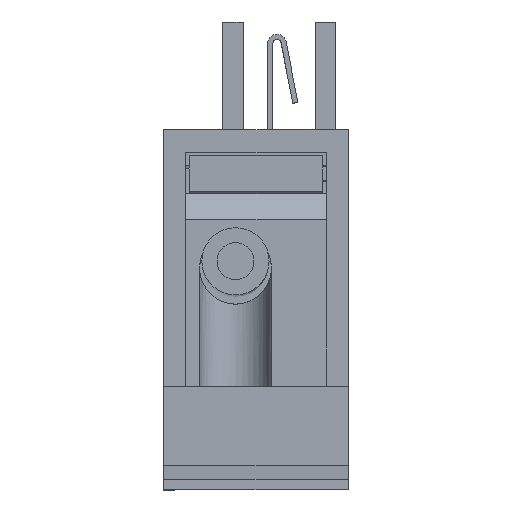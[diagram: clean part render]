
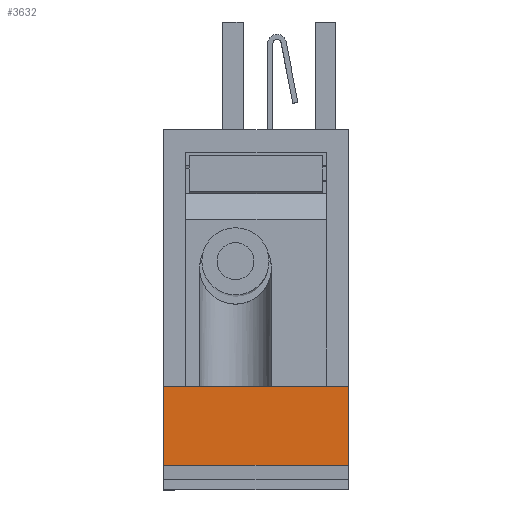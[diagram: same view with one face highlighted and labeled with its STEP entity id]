
A CAD part, top view. The second image highlights one B-rep face of the part: STEP entity #3632.
In plain terms, the highlighted planar face has unit normal (0, 0, 1).
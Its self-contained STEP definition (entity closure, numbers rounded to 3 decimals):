
#3619=AXIS2_PLACEMENT_3D('Plane Axis2P3D',#3616,#3617,#3618) ;
#1195=CARTESIAN_POINT('Vertex',(-9.,24.,37.5)) ;
#1198=CARTESIAN_POINT('Line Origine',(-9.,28.08,37.5)) ;
#1202=CARTESIAN_POINT('Vertex',(-9.,32.16,37.5)) ;
#1618=CARTESIAN_POINT('Vertex',(9.,32.16,37.5)) ;
#1621=CARTESIAN_POINT('Line Origine',(9.,28.08,37.5)) ;
#1625=CARTESIAN_POINT('Vertex',(9.,24.,37.5)) ;
#3534=CARTESIAN_POINT('Line Origine',(0.,24.,37.5)) ;
#3616=CARTESIAN_POINT('Axis2P3D Location',(0.,24.,37.5)) ;
#3621=CARTESIAN_POINT('Line Origine',(0.,32.16,37.5)) ;
#1199=DIRECTION('Vector Direction',(0.,1.,0.)) ;
#1622=DIRECTION('Vector Direction',(0.,1.,0.)) ;
#3535=DIRECTION('Vector Direction',(1.,0.,0.)) ;
#3617=DIRECTION('Axis2P3D Direction',(0.,0.,-1.)) ;
#3618=DIRECTION('Axis2P3D XDirection',(0.,1.,0.)) ;
#3622=DIRECTION('Vector Direction',(1.,0.,0.)) ;
#1200=VECTOR('Line Direction',#1199,1.) ;
#1623=VECTOR('Line Direction',#1622,1.) ;
#3536=VECTOR('Line Direction',#3535,1.) ;
#3623=VECTOR('Line Direction',#3622,1.) ;
#3627=ORIENTED_EDGE('',*,*,#1627,.T.) ;
#3628=ORIENTED_EDGE('',*,*,#3625,.F.) ;
#3629=ORIENTED_EDGE('',*,*,#1204,.F.) ;
#3630=ORIENTED_EDGE('',*,*,#3538,.T.) ;
#3632=ADVANCED_FACE('Geh\X2\00E4\X0\use',(#3631),#3620,.F.) ;
#1204=EDGE_CURVE('',#1196,#1203,#1201,.T.) ;
#1627=EDGE_CURVE('',#1626,#1619,#1624,.T.) ;
#3538=EDGE_CURVE('',#1196,#1626,#3537,.T.) ;
#3625=EDGE_CURVE('',#1203,#1619,#3624,.T.) ;
#3626=EDGE_LOOP('',(#3627,#3628,#3629,#3630)) ;
#3631=FACE_OUTER_BOUND('',#3626,.T.) ;
#1201=LINE('Line',#1198,#1200) ;
#1624=LINE('Line',#1621,#1623) ;
#3537=LINE('Line',#3534,#3536) ;
#3624=LINE('Line',#3621,#3623) ;
#3620=PLANE('',#3619) ;
#1196=VERTEX_POINT('',#1195) ;
#1203=VERTEX_POINT('',#1202) ;
#1619=VERTEX_POINT('',#1618) ;
#1626=VERTEX_POINT('',#1625) ;
